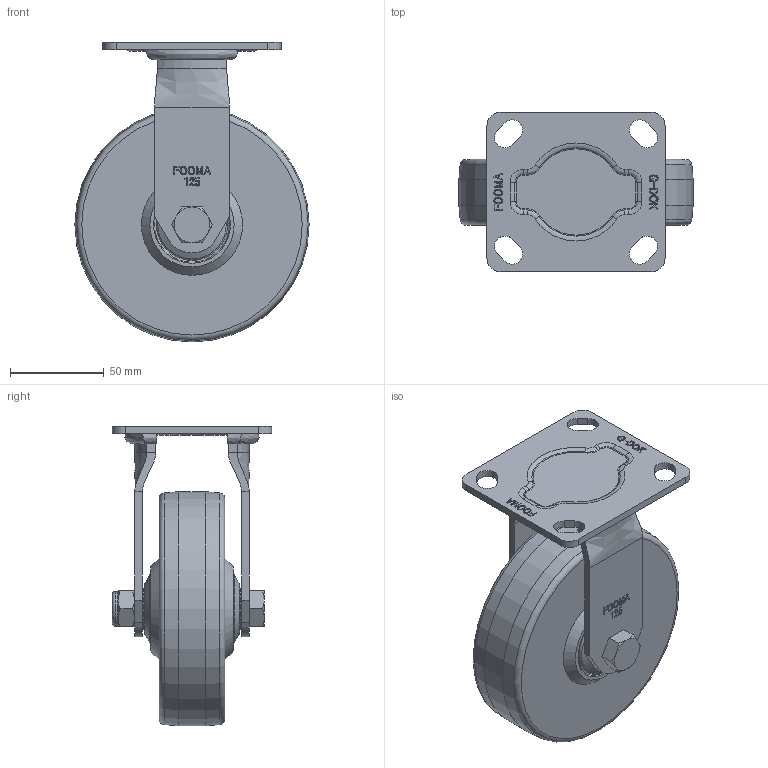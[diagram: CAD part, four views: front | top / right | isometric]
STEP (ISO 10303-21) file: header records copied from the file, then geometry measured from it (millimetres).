
FILE_DESCRIPTION(/* description */ (''),/* implementation_level */ '2;1');
FILE_NAME(/* name */ 'E:\★.DWG\★개발도면\PLM-SERIES(경중하중)-2016\홈페이지용\STEP\PLM-125-ARF-MCD.stp',/* time_stamp */ '2018-02-20T17:57:45+09:00',/* author */ ('장용하'),/* organization */ (''),/* preprocessor_version */ 'ST-DEVELOPER v16.13',/* originating_system */ 'Autodesk Inventor 2018',/* authorisation */ '');
FILE_SCHEMA (('AUTOMOTIVE_DESIGN { 1 0 10303 214 3 1 1 }'));
Length unit declared in the file: millimetre
Products named in the file (1): PLM-125-ARF-MCD ASSY_Shrinkwrap_1
Bounding box: 125 x 85 x 160 mm (x, y, z)
Volume: 515084.3 mm3; surface area: 77684.1 mm2
Topology: 1 solids, 1 shells, 684 faces, 1795 edges, 1167 vertices
Faces by surface type: plane 318, bspline 223, torus 66, cylinder 54, cone 23
Full cylindrical faces by diameter (mm): 18.5 x1, 22 x4, 36 x2, 38 x2, 40 x2, 125 x1
Entity records: 22313 total; most frequent: CARTESIAN_POINT 6229, ORIENTED_EDGE 3496, DIRECTION 2545, EDGE_CURVE 1748, VERTEX_POINT 1161, LINE 931, VECTOR 931, AXIS2_PLACEMENT_3D 807
